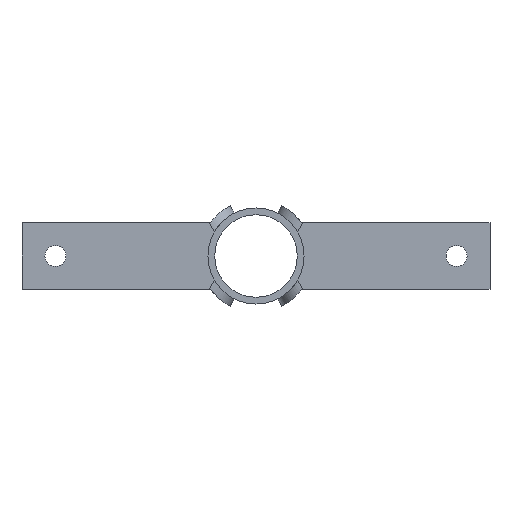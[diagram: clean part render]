
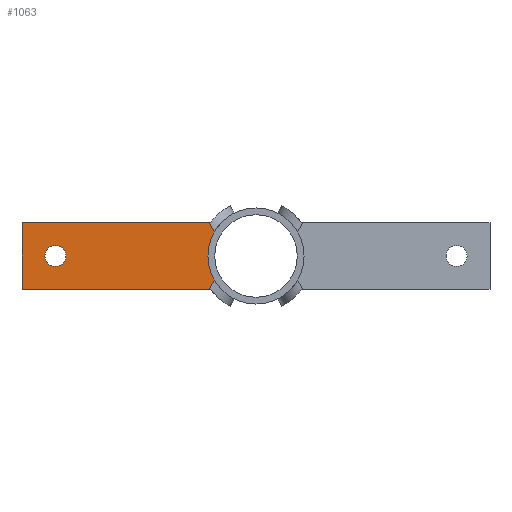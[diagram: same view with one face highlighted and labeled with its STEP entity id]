
A CAD part, front view. The second image highlights one B-rep face of the part: STEP entity #1063.
In plain terms, the highlighted planar face has unit normal (0, -1, 0).
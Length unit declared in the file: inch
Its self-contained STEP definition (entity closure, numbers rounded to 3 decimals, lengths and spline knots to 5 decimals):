
#45=FACE_BOUND('',#188,.T.);
#58=CIRCLE('',#1142,1.4375);
#59=CIRCLE('',#1143,1.4375);
#60=CIRCLE('',#1144,0.3125);
#98=PLANE('',#1141);
#135=FACE_OUTER_BOUND('',#187,.T.);
#187=EDGE_LOOP('',(#736,#737,#738,#739,#740,#741,#742));
#188=EDGE_LOOP('',(#743));
#258=LINE('',#1598,#343);
#265=LINE('',#1651,#350);
#266=LINE('',#1657,#351);
#272=LINE('',#1710,#357);
#279=LINE('',#1772,#364);
#343=VECTOR('',#1248,0.3937);
#350=VECTOR('',#1261,0.3937);
#351=VECTOR('',#1266,0.3937);
#357=VECTOR('',#1276,0.3937);
#364=VECTOR('',#1301,0.3937);
#439=VERTEX_POINT('',#1595);
#440=VERTEX_POINT('',#1597);
#445=VERTEX_POINT('',#1632);
#447=VERTEX_POINT('',#1654);
#448=VERTEX_POINT('',#1656);
#455=VERTEX_POINT('',#1708);
#463=VERTEX_POINT('',#1769);
#464=VERTEX_POINT('',#1773);
#542=EDGE_CURVE('',#440,#439,#258,.T.);
#551=EDGE_CURVE('',#445,#439,#265,.T.);
#553=EDGE_CURVE('',#447,#448,#266,.T.);
#562=EDGE_CURVE('',#447,#455,#272,.T.);
#573=EDGE_CURVE('',#463,#445,#58,.T.);
#574=EDGE_CURVE('',#448,#463,#59,.T.);
#575=EDGE_CURVE('',#455,#440,#279,.T.);
#576=EDGE_CURVE('',#464,#464,#60,.T.);
#736=ORIENTED_EDGE('',*,*,#551,.F.);
#737=ORIENTED_EDGE('',*,*,#573,.F.);
#738=ORIENTED_EDGE('',*,*,#574,.F.);
#739=ORIENTED_EDGE('',*,*,#553,.F.);
#740=ORIENTED_EDGE('',*,*,#562,.T.);
#741=ORIENTED_EDGE('',*,*,#575,.T.);
#742=ORIENTED_EDGE('',*,*,#542,.T.);
#743=ORIENTED_EDGE('',*,*,#576,.T.);
#1063=ADVANCED_FACE('',(#135,#45),#98,.F.);
#1141=AXIS2_PLACEMENT_3D('',#1768,#1295,#1296);
#1142=AXIS2_PLACEMENT_3D('',#1770,#1297,#1298);
#1143=AXIS2_PLACEMENT_3D('',#1771,#1299,#1300);
#1144=AXIS2_PLACEMENT_3D('',#1774,#1302,#1303);
#1248=DIRECTION('',(1.,0.,0.));
#1261=DIRECTION('',(-0.5,0.,-0.866));
#1266=DIRECTION('',(0.5,0.,-0.866));
#1276=DIRECTION('',(-1.,0.,0.));
#1295=DIRECTION('center_axis',(0.,1.,0.));
#1296=DIRECTION('ref_axis',(0.,0.,1.));
#1297=DIRECTION('center_axis',(0.,-1.,0.));
#1298=DIRECTION('ref_axis',(1.,0.,0.));
#1299=DIRECTION('center_axis',(0.,-1.,0.));
#1300=DIRECTION('ref_axis',(1.,0.,0.));
#1301=DIRECTION('',(0.,0.,-1.));
#1302=DIRECTION('center_axis',(0.,1.,0.));
#1303=DIRECTION('ref_axis',(-1.,0.,0.));
#1595=CARTESIAN_POINT('',(-1.40817,4.,-1.));
#1597=CARTESIAN_POINT('',(-7.,4.,-1.));
#1598=CARTESIAN_POINT('',(-7.,4.,-1.));
#1632=CARTESIAN_POINT('',(-1.24535,4.,-0.71799));
#1651=CARTESIAN_POINT('',(-0.84965,4.,-0.03262));
#1654=CARTESIAN_POINT('',(-1.40817,4.,1.));
#1656=CARTESIAN_POINT('',(-1.24535,4.,0.71799));
#1657=CARTESIAN_POINT('',(-1.17678,4.,0.59922));
#1708=CARTESIAN_POINT('',(-7.,4.,1.));
#1710=CARTESIAN_POINT('',(7.,4.,1.));
#1768=CARTESIAN_POINT('Origin',(0.,4.,0.9));
#1769=CARTESIAN_POINT('',(-1.4375,4.,0.));
#1770=CARTESIAN_POINT('Origin',(0.,4.,0.));
#1771=CARTESIAN_POINT('Origin',(0.,4.,0.));
#1772=CARTESIAN_POINT('',(-7.,4.,1.));
#1773=CARTESIAN_POINT('',(-5.6875,4.,0.));
#1774=CARTESIAN_POINT('Origin',(-6.,4.,0.));
